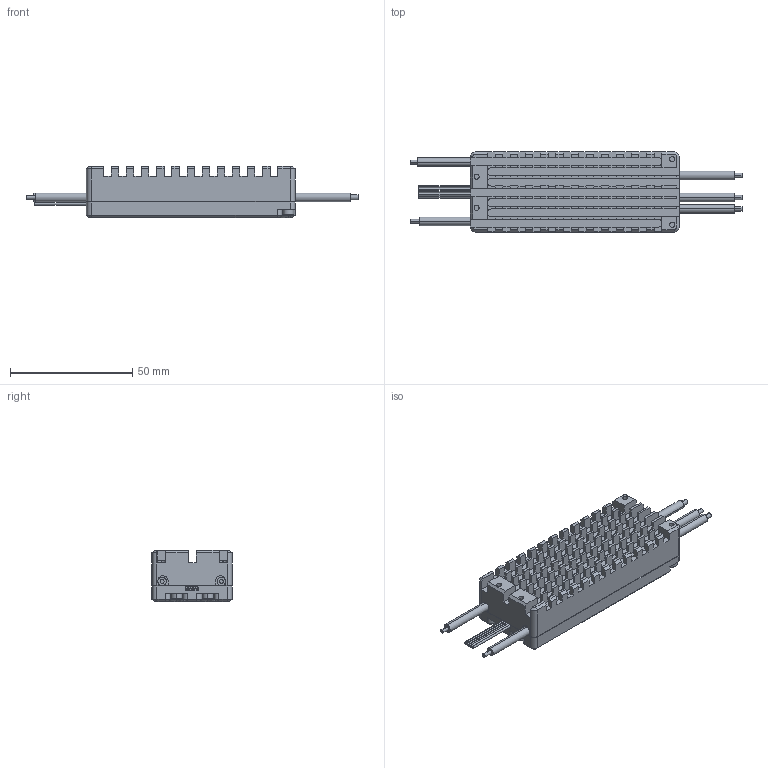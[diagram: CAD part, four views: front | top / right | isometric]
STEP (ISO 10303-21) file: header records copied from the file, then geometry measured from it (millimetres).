
FILE_DESCRIPTION (( 'STEP AP203' ), '1' );
FILE_NAME ('RD A60 (315_317)_3d_step_with enclosure.STEP', '2026-07-02T04:46:05', ( '' ), ( '' ), 'RD2.0', 'REFLEX DRIVE', '' );
FILE_SCHEMA (( 'CONFIG_CONTROL_DESIGN' ));
Length unit declared in the file: millimetre
Products named in the file (1): RD A60 (315_317)_3d_step_with enclosure
Bounding box: 135.9 x 32.76 x 21.02 mm (x, y, z)
Volume: 41732.5 mm3; surface area: 22315.5 mm2
Topology: 1 solids, 6 shells, 950 faces, 2606 edges, 1693 vertices
Faces by surface type: plane 677, cylinder 221, cone 36, torus 16
Entity records: 30043 total; most frequent: CARTESIAN_POINT 5456, ORIENTED_EDGE 5196, DIRECTION 4994, EDGE_CURVE 2598, LINE 2076, VECTOR 2076, VERTEX_POINT 1693, AXIS2_PLACEMENT_3D 1459
